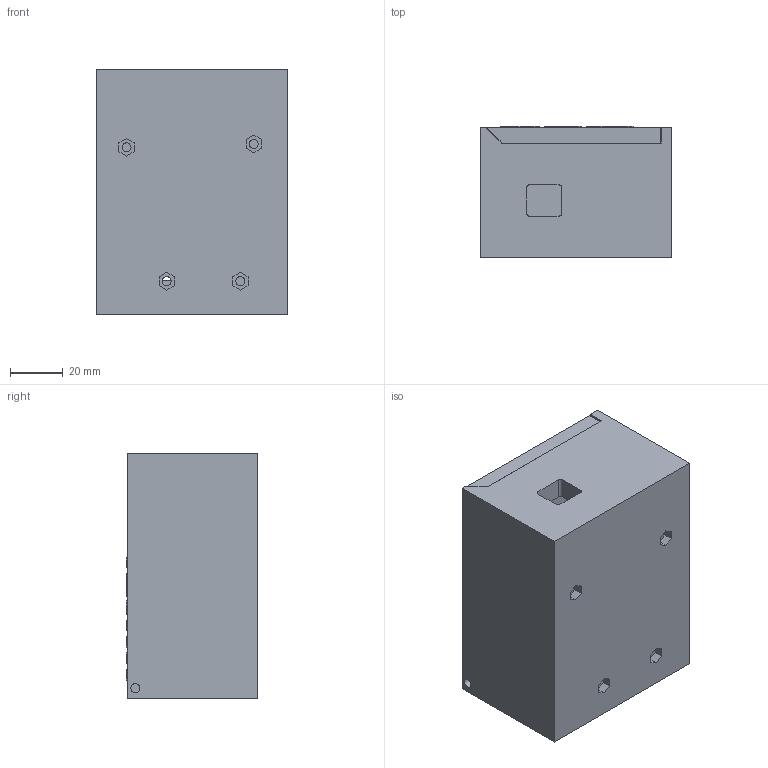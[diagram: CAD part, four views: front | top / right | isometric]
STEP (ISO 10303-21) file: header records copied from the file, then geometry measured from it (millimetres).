
FILE_DESCRIPTION(/* description */ (''),/* implementation_level */ '2;1');
FILE_NAME(/* name */ 'CameraITS_Arduino_Lighting_Controller_Enclosure_Aug_2024.step',/* time_stamp */ '2024-08-16T12:24:30-07:00',/* author */ (''),/* organization */ (''),/* preprocessor_version */ 'ST-DEVELOPER v20',/* originating_system */ 'Autodesk Translation Framework v13.14.0.145',/* authorisation */ '');
FILE_SCHEMA (('AUTOMOTIVE_DESIGN { 1 0 10303 214 3 1 1 }'));
Products named in the file (4): CameraITS_Arduino_Lighting_Controller_Case_02_cheap_engraved; base; CameraITS_Arduino_Lighting_Controller_Case_02_cheap_top v2; top
Assembly tree (3 placements, depth 3):
  CameraITS_Arduino_Lighting_Controller_Case_02_cheap_engraved
    base
    CameraITS_Arduino_Lighting_Controller_Case_02_cheap_top v2
      top
Bounding box: 72.83 x 49.89 x 93.12 mm (x, y, z)
Volume: 152227.3 mm3; surface area: 51188.3 mm2
Topology: 2 solids, 2 shells, 1097 faces, 3051 edges, 2032 vertices
Faces by surface type: bspline 642, plane 437, cylinder 18
Full cylindrical faces by diameter (mm): 3.4 x6
Entity records: 42220 total; most frequent: CARTESIAN_POINT 18356, ORIENTED_EDGE 6102, EDGE_CURVE 3051, DIRECTION 2729, VERTEX_POINT 2032, LINE 1731, VECTOR 1731, B_SPLINE_CURVE_WITH_KNOTS 1284
